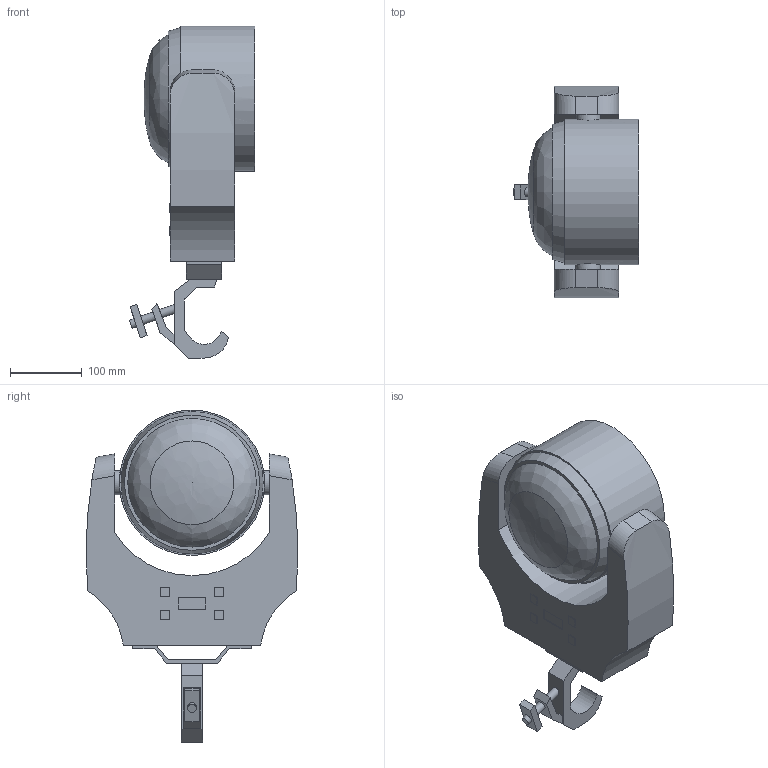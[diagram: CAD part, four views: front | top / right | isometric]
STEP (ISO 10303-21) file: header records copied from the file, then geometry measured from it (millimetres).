
FILE_DESCRIPTION( ( 'Unknown' ), '1' );
FILE_NAME( 'K:/ROBE-LED/29 Actor 3/2D_3D symbol/3D_Actor3_90.stp', 'Unknown', ( '*' ), ( '*' ), 'PSStep 15.0.49', 'SolidEdge', ' ' );
FILE_SCHEMA( ( 'AUTOMOTIVE_DESIGN { 1 0 10303 214 1 1 1 1 }' ) );
Length unit declared in the file: millimetre
Products named in the file (6): Omega_SlimClamp_90; Omega+SlimClamp; Clamp Doughty Slimline QT; Assem1; A3Rameno; A3Hlava
Assembly tree (5 placements, depth 3):
  Assem1
    A3Rameno
    A3Hlava
    Omega_SlimClamp_90
      Omega+SlimClamp
      Clamp Doughty Slimline QT
Bounding box: 174.78 x 295.53 x 463.12 mm (x, y, z)
Volume: 8229885.3 mm3; surface area: 407721.6 mm2
Topology: 4 solids, 4 shells, 111 faces, 272 edges, 183 vertices
Faces by surface type: plane 82, cylinder 26, bspline 2, cone 1
Full cylindrical faces by diameter (mm): 11 x4, 12 x4, 13 x2, 34 x3, 180 x1, 203 x1
Entity records: 4440 total; most frequent: CARTESIAN_POINT 905, DIRECTION 518, ORIENTED_EDGE 484, EDGE_CURVE 242, LINE 186, VECTOR 186, VERTEX_POINT 173, AXIS2_PLACEMENT_3D 166
